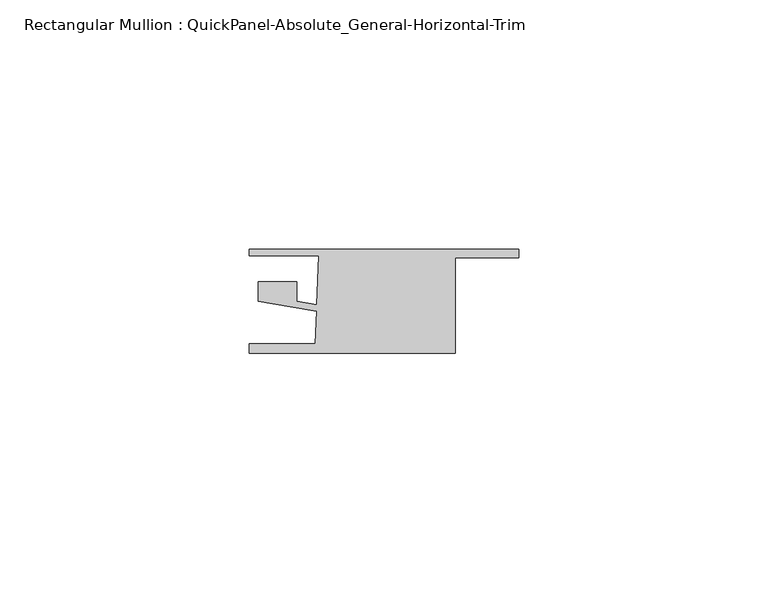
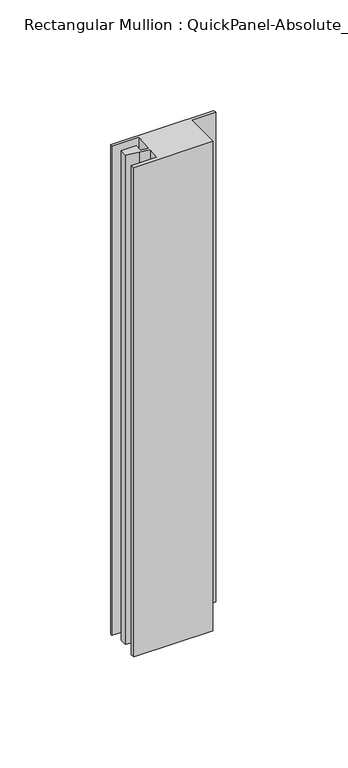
"""IFC4 building model written with IfcOpenShell, lengths in millimetres: member geometry, Rectangular Mullion : QuickPanel-Absolute_General-Horizontal-Trim."""

import ifcopenshell
import ifcopenshell.guid

model = None  # the IFC model being written
_history = None  # IfcOwnerHistory: only IFC2X3 demands one
_inside = {}  # id of a spatial element -> (the spatial element, [elements in it])
_under = {}  # id of a project, library or spatial element -> (it, [spatial elements below it])
_declared = {}  # id of a project -> (the project, [libraries it declares])
_typed = {}  # id of a type object -> (the type object, [elements of that type])
_made_of = {}  # id of a material, layer set ... -> (it, [elements and type objects made of it])


def new_model(schema):
    """Start an empty IFC model of exactly this schema.

    Asked for "IFC4X3", IfcOpenShell would pick the latest addendum, in which some entities
    have other attributes; the version numbers below select the first issue.
    IFC2X3 requires an IfcOwnerHistory on every rooted entity: one is made here for all.
    """
    global model, _history
    if schema == "IFC4X3":
        model = ifcopenshell.file(schema_version=(4, 3, 0, 0))
    else:
        model = ifcopenshell.file(schema=schema)
    _inside.clear()
    _under.clear()
    _declared.clear()
    _typed.clear()
    _made_of.clear()
    _history = None
    if model.schema == "IFC2X3":
        org = make("IfcOrganization", Name="unknown")
        user = make(
            "IfcPersonAndOrganization",
            ThePerson=make("IfcPerson", FamilyName="unknown"),
            TheOrganization=org,
        )
        app = make(
            "IfcApplication",
            ApplicationDeveloper=org,
            Version="unknown",
            ApplicationFullName="unknown",
            ApplicationIdentifier="unknown",
        )
        _history = make(
            "IfcOwnerHistory",
            OwningUser=user,
            OwningApplication=app,
            ChangeAction="ADDED",
            CreationDate=0,
        )
    return model


def make(cls, **values):
    """One entity of the class cls with the attributes given. An attribute that is None is left unset."""
    return model.create_entity(
        cls, **{name: value for name, value in values.items() if value is not None}
    )


def rooted(cls, **values):
    """An entity with a GlobalId (a new one), such as an element, a storey or a relation."""
    return make(cls, GlobalId=ifcopenshell.guid.new(), OwnerHistory=_history, **values)


def si_unit(unit_type, name, prefix=None):
    """IfcSIUnit, for example si_unit("LENGTHUNIT", "METRE", prefix="MILLI")."""
    return make("IfcSIUnit", UnitType=unit_type, Prefix=prefix, Name=name)


def assignment(units):
    """IfcUnitAssignment: the units of a project."""
    return None if units is None else make("IfcUnitAssignment", Units=units)


def point(xyz):
    """IfcCartesianPoint."""
    return None if xyz is None else make("IfcCartesianPoint", Coordinates=xyz)


def direction(xyz):
    """IfcDirection."""
    return None if xyz is None else make("IfcDirection", DirectionRatios=xyz)


def frame(location, z_axis=None, x_axis=None):
    """IfcAxis2Placement3D, a coordinate frame: its origin and axes. An axis left out is left unset."""
    return make(
        "IfcAxis2Placement3D",
        Location=point(location),
        Axis=direction(z_axis),
        RefDirection=direction(x_axis),
    )


def origin():
    """The frame at (0, 0, 0) with its axes left unset."""
    return frame((0.0, 0.0, 0.0))


def place(relative_to, where):
    """IfcLocalPlacement: puts the frame where relative to a parent placement (None: the world)."""
    return make(
        "IfcLocalPlacement", PlacementRelTo=relative_to, RelativePlacement=where
    )


def context(
    kind, dimensions, precision=None, world=None, true_north=None, identifier=None
):
    """IfcGeometricRepresentationContext, for example the 3D "Model" context."""
    return make(
        "IfcGeometricRepresentationContext",
        ContextIdentifier=identifier,
        ContextType=kind,
        CoordinateSpaceDimension=dimensions,
        Precision=precision,
        WorldCoordinateSystem=world,
        TrueNorth=true_north,
    )


def project(units=None, contexts=None):
    """IfcProject with its units and contexts."""
    return rooted(
        "IfcProject",
        Name="project",
        RepresentationContexts=contexts,
        UnitsInContext=assignment(units),
    )


def spatial(cls, under=None, at=None, **own):
    """A site, building, storey or space (cls), placed at a placement, below another one or the project."""
    s = rooted(cls, ObjectPlacement=at, **own)
    if under is not None:
        _under.setdefault(under.id(), (under, []))[1].append(s)
    return s


def polyline(points):
    """IfcPolyline through the points."""
    return make("IfcPolyline", Points=[point(p) for p in points])


def outline(outer, holes=None, kind="AREA"):
    """IfcArbitraryClosedProfileDef: a profile drawn as a closed curve; with holes, ...WithVoids."""
    if holes is None:
        return make("IfcArbitraryClosedProfileDef", ProfileType=kind, OuterCurve=outer)
    return make(
        "IfcArbitraryProfileDefWithVoids",
        ProfileType=kind,
        OuterCurve=outer,
        InnerCurves=holes,
    )


def extrude(swept, where, along, depth):
    """IfcExtrudedAreaSolid: the profile swept, set in the frame where, extruded along a direction by depth."""
    return make(
        "IfcExtrudedAreaSolid",
        SweptArea=swept,
        Position=where,
        ExtrudedDirection=direction(along),
        Depth=depth,
    )


def shape(context_of_items, identifier, shape_type, items):
    """IfcShapeRepresentation: the items that make up one representation, for example the "Body"."""
    return make(
        "IfcShapeRepresentation",
        ContextOfItems=context_of_items,
        RepresentationIdentifier=identifier,
        RepresentationType=shape_type,
        Items=items,
    )


def source(mapping_origin, context_of_items, identifier, shape_type, items):
    """IfcRepresentationMap: a shape defined once, which mapped items show again and again."""
    return make(
        "IfcRepresentationMap",
        MappingOrigin=mapping_origin,
        MappedRepresentation=shape(context_of_items, identifier, shape_type, items),
    )


def transform(
    local_origin,
    x_axis=None,
    y_axis=None,
    z_axis=None,
    scale=None,
    scale2=None,
    scale3=None,
    uniform=True,
):
    """IfcCartesianTransformationOperator3D, or its non-uniform kind. x_axis, y_axis, z_axis: its Axis1, 2, 3."""
    if uniform:
        return make(
            "IfcCartesianTransformationOperator3D",
            Axis1=direction(x_axis),
            Axis2=direction(y_axis),
            LocalOrigin=point(local_origin),
            Scale=scale,
            Axis3=direction(z_axis),
        )
    return make(
        "IfcCartesianTransformationOperator3DnonUniform",
        Axis1=direction(x_axis),
        Axis2=direction(y_axis),
        LocalOrigin=point(local_origin),
        Scale=scale,
        Axis3=direction(z_axis),
        Scale2=scale2,
        Scale3=scale3,
    )


def mapped(mapping_source, mapping_target):
    """IfcMappedItem: shows the shape of a source again, moved by a transform."""
    return make(
        "IfcMappedItem", MappingSource=mapping_source, MappingTarget=mapping_target
    )


def made_of(thing, what):
    """Note that an element or type object is made of a material, layer set ...; save() writes the relation."""
    if what is not None:
        _made_of.setdefault(what.id(), (what, []))[1].append(thing)
    return thing


def element(
    cls,
    number,
    at=None,
    inside=None,
    cuts=None,
    type_object=None,
    material=None,
    context=None,
    identifier="Body",
    shape_type=None,
    held_by="IfcProductDefinitionShape",
    body=None,
    shapes=None,
    **own,
):
    """One element of the class cls, such as IfcWall. Its Tag is "e" and its number.

    at: its placement. inside: the storey or other place that contains it. cuts: it is an
    opening in that element (IfcRelVoidsElement). A single representation is given by context,
    identifier, shape_type and body (its items); several are given by shapes. held_by: the class
    of the entity that holds the representations. save() writes the other relations.
    """
    e = rooted(cls, Tag="e%d" % number, ObjectPlacement=at, **own)
    if body is not None:
        shapes = [shape(context, identifier, shape_type, body)]
    if shapes is not None:
        e.Representation = make(held_by, Representations=shapes)
    if inside is not None:
        _inside.setdefault(inside.id(), (inside, []))[1].append(e)
    if cuts is not None:
        rooted(
            "IfcRelVoidsElement", RelatingBuildingElement=cuts, RelatedOpeningElement=e
        )
    if type_object is not None:
        _typed.setdefault(type_object.id(), (type_object, []))[1].append(e)
    return made_of(e, material)


def aggregate(whole, parts):
    """IfcRelAggregates: a whole, such as a stair, and the parts it consists of."""
    return rooted("IfcRelAggregates", RelatingObject=whole, RelatedObjects=parts)


def save(model, path):
    """Write the relations noted so far, then the file.

    IfcRelAggregates (storeys below a building ...), IfcRelContainedInSpatialStructure (elements
    in a storey), IfcRelDefinesByType, IfcRelAssociatesMaterial and IfcRelDeclares: one each for
    every whole, place, type object, material and project.
    """
    for whole, parts in _under.values():
        aggregate(whole, parts)
    for where, things in _inside.values():
        rooted(
            "IfcRelContainedInSpatialStructure",
            RelatedElements=things,
            RelatingStructure=where,
        )
    for kind, things in _typed.values():
        rooted("IfcRelDefinesByType", RelatedObjects=things, RelatingType=kind)
    for what, things in _made_of.values():
        rooted("IfcRelAssociatesMaterial", RelatedObjects=things, RelatingMaterial=what)
    for by, libraries in _declared.values():
        rooted("IfcRelDeclares", RelatingContext=by, RelatedDefinitions=libraries)
    model.write(path)


def rectangular_mullion_quickpanel_absolute_general_horizontal_bc66b378(model_context):
    return source(origin(), model_context, "Body", "SweptSolid", [
        extrude(outline(polyline([(-53.975, -8.6293878), (-53.975, -6.6935423), (-40.7340873, -6.6935423), (-40.5073021, -0.1992641), (-45.757583, 0.7008023), (-52.1929157, 1.8040245), (-52.1929157, 5.6493034), (-44.4481426, 5.6493034), (-44.4481426, 1.7648465), (-40.4625736, 1.0815922), (-40.1186466, 10.9303752), (-53.975, 10.9303752), (-53.975, 12.1803727), (0.0, 12.1803727), (0.0, 10.4985348), (-12.6805114, 10.4985348), (-12.6805114, -8.6293878), (-53.975, -8.6293878)])), frame((0.0, 0.0, -270.290162), z_axis=(0.0, 0.0, 1.0), x_axis=(1.0, 0.0, 0.0)), (0.0, 0.0, 1.0), 270.290162),
    ])


if __name__ == "__main__":
    model = new_model("IFC4")
    model_context = context("Model", 3, world=origin())
    ifc_project = project(units=[si_unit("LENGTHUNIT", "METRE", prefix="MILLI")], contexts=[model_context])
    site = spatial("IfcSite", under=ifc_project)
    building = spatial("IfcBuilding", under=site)
    placement = place(None, origin())
    rectangular_mullion_quickpanel_absolute_general_horizontal_shape = rectangular_mullion_quickpanel_absolute_general_horizontal_bc66b378(model_context)
    element("IfcMember", 1, ObjectType="Rectangular Mullion : QuickPanel-Absolute_General-Horizontal-Trim", at=placement, inside=building, context=model_context, shape_type="MappedRepresentation", body=[
        mapped(rectangular_mullion_quickpanel_absolute_general_horizontal_shape, transform((0.0, 0.0, 0.0), x_axis=(1.0, 0.0, 0.0), y_axis=(0.0, 1.0, 0.0), z_axis=(0.0, 0.0, 1.0))),
    ])
    save(model, "model.ifc")
